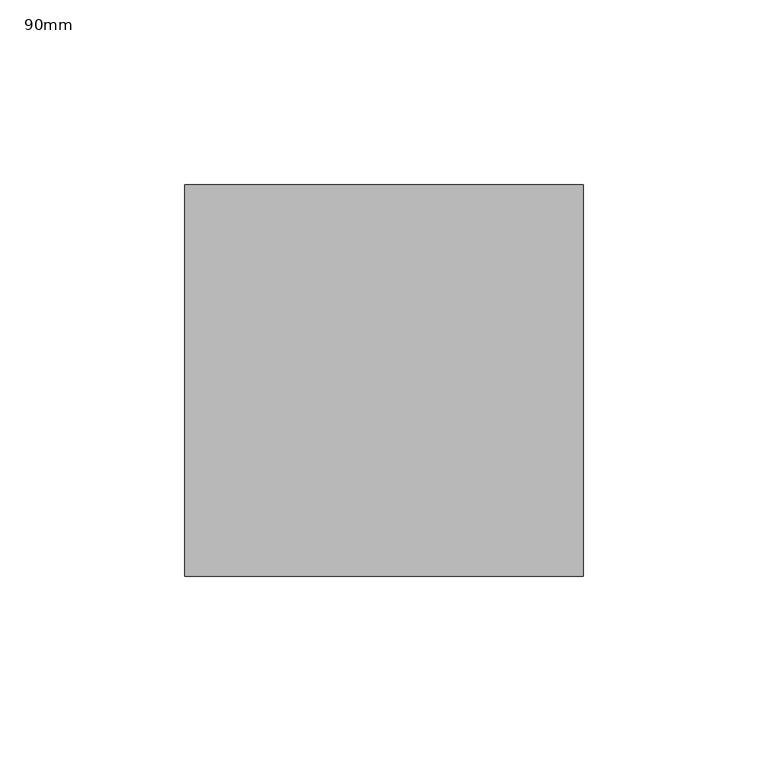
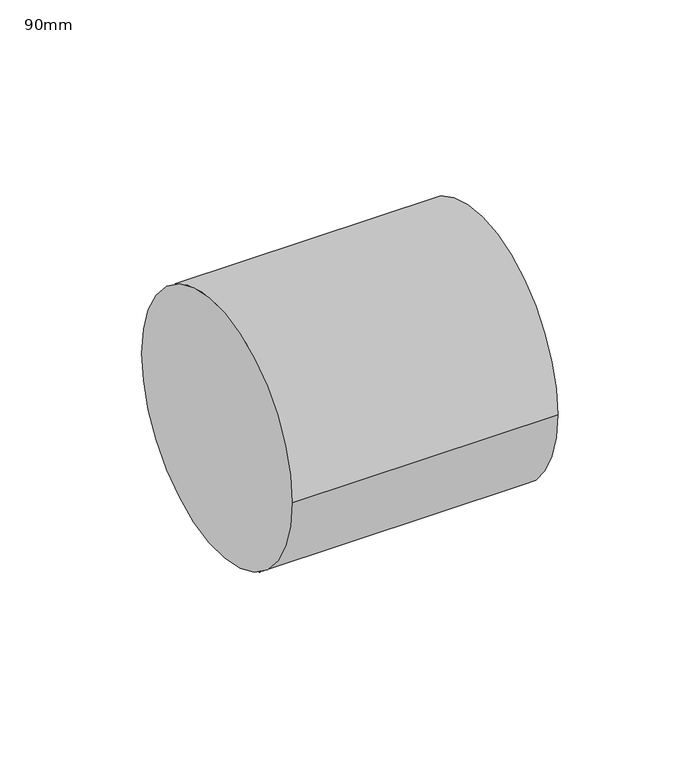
"""IFC4 building model written with IfcOpenShell, lengths in millimetres: pipe fitting geometry, PipeFitting_HTA_CPVC_Couplings : 90mm."""

from ifc_helpers import new_model, si_unit, point, frame, origin, origin_2d, place, context, project, spatial, circle_curve, trimmed, segment, composite_curve, outline, extrude, source, transform, mapped, element, save


def pipe_fitting_90mm_a3f2d70a(model_context):
    return source(origin(), model_context, "Body", "SweptSolid", [
        extrude(outline(composite_curve([segment(trimmed(circle_curve(origin_2d(), 53.0), [point((-53.0, 0.0))], [point((53.0, 0.0))], False, "CARTESIAN"), True, "CONTINUOUS"), segment(trimmed(circle_curve(origin_2d(), 53.0), [point((53.0, 0.0))], [point((-53.0, 0.0))], False, "CARTESIAN"), True, "CONTINUOUS")], self_intersect=False)), frame((-54.0, 0.0, 0.0), z_axis=(1.0, 0.0, 0.0), x_axis=(0.0, 1.0, 0.0)), (0.0, 0.0, 1.0), 108.0),
    ])


if __name__ == "__main__":
    model = new_model("IFC4")
    model_context = context("Model", 3, world=origin())
    ifc_project = project(units=[si_unit("LENGTHUNIT", "METRE", prefix="MILLI")], contexts=[model_context])
    site = spatial("IfcSite", under=ifc_project)
    building = spatial("IfcBuilding", under=site)
    placement = place(None, origin())
    pipe_fitting_90mm_shape = pipe_fitting_90mm_a3f2d70a(model_context)
    element("IfcPipeFitting", 1, ObjectType="PipeFitting_HTA_CPVC_Couplings : 90mm", at=placement, inside=building, context=model_context, shape_type="MappedRepresentation", body=[
        mapped(pipe_fitting_90mm_shape, transform((0.0, 0.0, 0.0), x_axis=(1.0, 0.0, 0.0), y_axis=(0.0, 1.0, 0.0), z_axis=(0.0, 0.0, 1.0))),
    ])
    save(model, "model.ifc")
